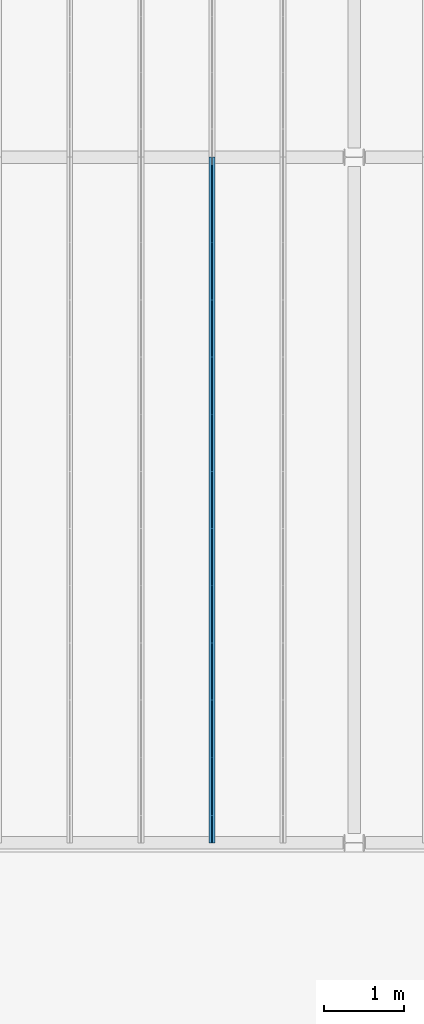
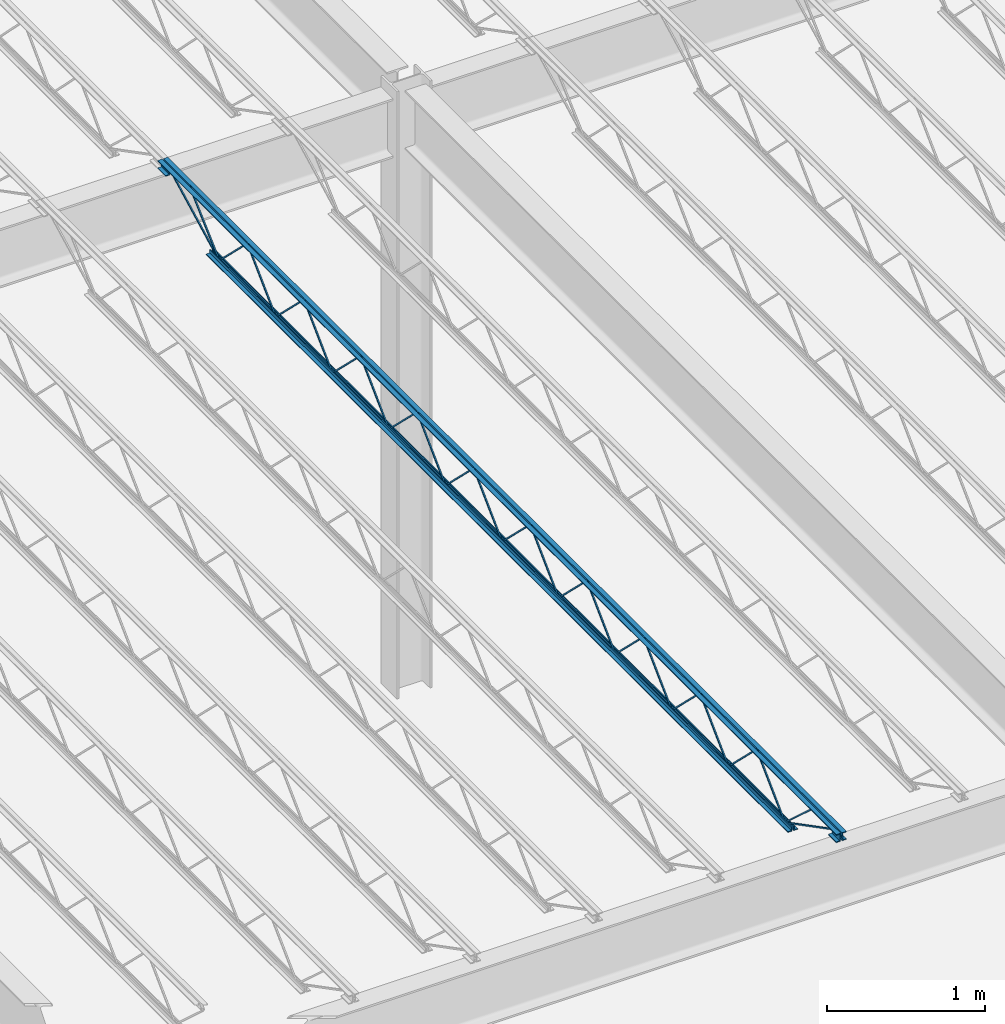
# One storey, part 31 of 119: 1 beam.
"""IFC2X3 building model written with IfcOpenShell, lengths in metres."""

import ifcopenshell
import ifcopenshell.guid

model = None  # the IFC model being written
_history = None  # IfcOwnerHistory: only IFC2X3 demands one
_inside = {}  # id of a spatial element -> (the spatial element, [elements in it])
_under = {}  # id of a project, library or spatial element -> (it, [spatial elements below it])
_declared = {}  # id of a project -> (the project, [libraries it declares])
_typed = {}  # id of a type object -> (the type object, [elements of that type])
_made_of = {}  # id of a material, layer set ... -> (it, [elements and type objects made of it])


def new_model(schema):
    """Start an empty IFC model of exactly this schema.

    Asked for "IFC4X3", IfcOpenShell would pick the latest addendum, in which some entities
    have other attributes; the version numbers below select the first issue.
    IFC2X3 requires an IfcOwnerHistory on every rooted entity: one is made here for all.
    """
    global model, _history
    if schema == "IFC4X3":
        model = ifcopenshell.file(schema_version=(4, 3, 0, 0))
    else:
        model = ifcopenshell.file(schema=schema)
    _inside.clear()
    _under.clear()
    _declared.clear()
    _typed.clear()
    _made_of.clear()
    _history = None
    if model.schema == "IFC2X3":
        org = make("IfcOrganization", Name="unknown")
        user = make(
            "IfcPersonAndOrganization",
            ThePerson=make("IfcPerson", FamilyName="unknown"),
            TheOrganization=org,
        )
        app = make(
            "IfcApplication",
            ApplicationDeveloper=org,
            Version="unknown",
            ApplicationFullName="unknown",
            ApplicationIdentifier="unknown",
        )
        _history = make(
            "IfcOwnerHistory",
            OwningUser=user,
            OwningApplication=app,
            ChangeAction="ADDED",
            CreationDate=0,
        )
    return model


def make(cls, **values):
    """One entity of the class cls with the attributes given. An attribute that is None is left unset."""
    return model.create_entity(
        cls, **{name: value for name, value in values.items() if value is not None}
    )


def entity(cls, *values):
    """Any entity or typed value of the class cls, its attributes in the order of the schema. None: left unset."""
    e = model.create_entity(cls)
    for i, value in enumerate(values):
        if value is not None:
            e[i] = value
    return e


def rooted(cls, **values):
    """An entity with a GlobalId (a new one), such as an element, a storey or a relation."""
    return make(cls, GlobalId=ifcopenshell.guid.new(), OwnerHistory=_history, **values)


def si_unit(unit_type, name, prefix=None):
    """IfcSIUnit, for example si_unit("LENGTHUNIT", "METRE", prefix="MILLI")."""
    return make("IfcSIUnit", UnitType=unit_type, Prefix=prefix, Name=name)


def converted_unit(unit_type, name, factor, base, dimensions=None, offset=None):
    """IfcConversionBasedUnit, such as the inch: factor (a typed value) times the base unit."""
    return make(
        "IfcConversionBasedUnit"
        if offset is None
        else "IfcConversionBasedUnitWithOffset",
        ConversionOffset=offset,
        Dimensions=None
        if dimensions is None
        else entity("IfcDimensionalExponents", *dimensions),
        UnitType=unit_type,
        Name=name,
        ConversionFactor=make(
            "IfcMeasureWithUnit", ValueComponent=factor, UnitComponent=base
        ),
    )


def assignment(units):
    """IfcUnitAssignment: the units of a project."""
    return None if units is None else make("IfcUnitAssignment", Units=units)


def point(xyz):
    """IfcCartesianPoint."""
    return None if xyz is None else make("IfcCartesianPoint", Coordinates=xyz)


def direction(xyz):
    """IfcDirection."""
    return None if xyz is None else make("IfcDirection", DirectionRatios=xyz)


def frame(location, z_axis=None, x_axis=None):
    """IfcAxis2Placement3D, a coordinate frame: its origin and axes. An axis left out is left unset."""
    return make(
        "IfcAxis2Placement3D",
        Location=point(location),
        Axis=direction(z_axis),
        RefDirection=direction(x_axis),
    )


def origin():
    """The frame at (0, 0, 0) with its axes left unset."""
    return frame((0.0, 0.0, 0.0))


def place(relative_to, where):
    """IfcLocalPlacement: puts the frame where relative to a parent placement (None: the world)."""
    return make(
        "IfcLocalPlacement", PlacementRelTo=relative_to, RelativePlacement=where
    )


def context(
    kind, dimensions, precision=None, world=None, true_north=None, identifier=None
):
    """IfcGeometricRepresentationContext, for example the 3D "Model" context."""
    return make(
        "IfcGeometricRepresentationContext",
        ContextIdentifier=identifier,
        ContextType=kind,
        CoordinateSpaceDimension=dimensions,
        Precision=precision,
        WorldCoordinateSystem=world,
        TrueNorth=true_north,
    )


def project(units=None, contexts=None):
    """IfcProject with its units and contexts."""
    return rooted(
        "IfcProject",
        Name="project",
        RepresentationContexts=contexts,
        UnitsInContext=assignment(units),
    )


def spatial(cls, under=None, at=None, **own):
    """A site, building, storey or space (cls), placed at a placement, below another one or the project."""
    s = rooted(cls, ObjectPlacement=at, **own)
    if under is not None:
        _under.setdefault(under.id(), (under, []))[1].append(s)
    return s


def faces_of(points, faces, orient=None, outer=None):
    """IfcFace entities. A face is a list of loops; a loop is a list of indices into points, from 0.

    orient and outer hold one flag for each loop. By default every Orientation is true, the
    first loop of a face is its IfcFaceOuterBound and the others are IfcFaceBound.
    """
    made = []
    for i, loops in enumerate(faces):
        bounds = []
        for j, loop in enumerate(loops):
            is_outer = j == 0 if outer is None else outer[i][j]
            bounds.append(
                make(
                    "IfcFaceOuterBound" if is_outer else "IfcFaceBound",
                    Bound=make("IfcPolyLoop", Polygon=[points[k] for k in loop]),
                    Orientation=True if orient is None else orient[i][j],
                )
            )
        made.append(make("IfcFace", Bounds=bounds))
    return made


def face_set(faces, orient=None, outer=None):
    """The faces of one IfcConnectedFaceSet. surface_model builds it on its shared points."""
    return ("IfcConnectedFaceSet", faces, orient, outer)


def surface_model(cls, points, shells):
    """IfcFaceBasedSurfaceModel or IfcShellBasedSurfaceModel (cls): surfaces that need not close."""
    shared = [point(p) for p in points]
    made = [make(c, CfsFaces=faces_of(shared, fs, o, b)) for c, fs, o, b in shells]
    if cls == "IfcFaceBasedSurfaceModel":
        return make(cls, FbsmFaces=made)
    return make(cls, SbsmBoundary=made)


def shape(context_of_items, identifier, shape_type, items):
    """IfcShapeRepresentation: the items that make up one representation, for example the "Body"."""
    return make(
        "IfcShapeRepresentation",
        ContextOfItems=context_of_items,
        RepresentationIdentifier=identifier,
        RepresentationType=shape_type,
        Items=items,
    )


def made_of(thing, what):
    """Note that an element or type object is made of a material, layer set ...; save() writes the relation."""
    if what is not None:
        _made_of.setdefault(what.id(), (what, []))[1].append(thing)
    return thing


def element(
    cls,
    number,
    at=None,
    inside=None,
    cuts=None,
    type_object=None,
    material=None,
    context=None,
    identifier="Body",
    shape_type=None,
    held_by="IfcProductDefinitionShape",
    body=None,
    shapes=None,
    **own,
):
    """One element of the class cls, such as IfcWall. Its Tag is "e" and its number.

    at: its placement. inside: the storey or other place that contains it. cuts: it is an
    opening in that element (IfcRelVoidsElement). A single representation is given by context,
    identifier, shape_type and body (its items); several are given by shapes. held_by: the class
    of the entity that holds the representations. save() writes the other relations.
    """
    e = rooted(cls, Tag="e%d" % number, ObjectPlacement=at, **own)
    if body is not None:
        shapes = [shape(context, identifier, shape_type, body)]
    if shapes is not None:
        e.Representation = make(held_by, Representations=shapes)
    if inside is not None:
        _inside.setdefault(inside.id(), (inside, []))[1].append(e)
    if cuts is not None:
        rooted(
            "IfcRelVoidsElement", RelatingBuildingElement=cuts, RelatedOpeningElement=e
        )
    if type_object is not None:
        _typed.setdefault(type_object.id(), (type_object, []))[1].append(e)
    return made_of(e, material)


def aggregate(whole, parts):
    """IfcRelAggregates: a whole, such as a stair, and the parts it consists of."""
    return rooted("IfcRelAggregates", RelatingObject=whole, RelatedObjects=parts)


def save(model, path):
    """Write the relations noted so far, then the file.

    IfcRelAggregates (storeys below a building ...), IfcRelContainedInSpatialStructure (elements
    in a storey), IfcRelDefinesByType, IfcRelAssociatesMaterial and IfcRelDeclares: one each for
    every whole, place, type object, material and project.
    """
    for whole, parts in _under.values():
        aggregate(whole, parts)
    for where, things in _inside.values():
        rooted(
            "IfcRelContainedInSpatialStructure",
            RelatedElements=things,
            RelatingStructure=where,
        )
    for kind, things in _typed.values():
        rooted("IfcRelDefinesByType", RelatedObjects=things, RelatingType=kind)
    for what, things in _made_of.values():
        rooted("IfcRelAssociatesMaterial", RelatedObjects=things, RelatingMaterial=what)
    for by, libraries in _declared.values():
        rooted("IfcRelDeclares", RelatingContext=by, RelatedDefinitions=libraries)
    model.write(path)


model = new_model("IFC2X3")

# Units and contexts
model_context = context("Model", 3, precision=1e-09, world=origin())
plan_context = context("Plan", 3, precision=1e-09, world=origin())
ifc_project = project(units=[si_unit("LENGTHUNIT", "METRE"), si_unit("AREAUNIT", "SQUARE_METRE"), si_unit("VOLUMEUNIT", "CUBIC_METRE"), converted_unit("PLANEANGLEUNIT", "DEGREE", entity("IfcRatioMeasure", 0.01745329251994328), si_unit("PLANEANGLEUNIT", "RADIAN"), dimensions=[0, 0, 0, 0, 0, 0, 0]), si_unit("TIMEUNIT", "SECOND")], contexts=[model_context, plan_context])

# Site, building, storey
site_placement = place(None, origin())
site = spatial("IfcSite", under=ifc_project, at=site_placement, Name="Default", CompositionType="ELEMENT")
building_placement = place(site_placement, origin())
building = spatial("IfcBuilding", under=site, at=building_placement, CompositionType="ELEMENT")
storey_placement = place(building_placement, frame((0.0, 0.0, 4.570000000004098)))
storey = spatial("IfcBuildingStorey", under=building, at=storey_placement, Name="Second Floor", CompositionType="ELEMENT", Elevation=4.570000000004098)

# Beam
beam_placement = place(storey_placement, frame((-35.36425000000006, 10.04000000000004, 4.323999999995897)))
element("IfcBeam", 1, at=beam_placement, inside=storey, Name="M_K-Series Bar Joist-Rod Web:14K1:14K1", ObjectType="M_K-Series Bar Joist-Rod Web:14K1", context=model_context, shape_type="SurfaceModel", body=[
    surface_model("IfcFaceBasedSurfaceModel", [(0.04150000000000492, 6.428799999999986, 0.01110000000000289), (0.03200000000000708, 6.428799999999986, 0.01110000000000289), (0.03200000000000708, 6.428799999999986, 0.001600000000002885), (0.04150000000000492, 6.428799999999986, 0.001600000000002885), (0.03200000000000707, 6.430038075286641, 0.01110000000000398), (0.04150000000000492, 6.430038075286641, 0.01110000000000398), (0.03200000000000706, 6.433911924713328, 0.001600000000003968), (0.03200000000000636, 6.784861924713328, 0.3449000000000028), (0.03200000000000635, 6.78733807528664, 0.3449000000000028), (0.03200000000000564, 7.138288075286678, 0.001600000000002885), (0.03200000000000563, 7.143399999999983, 0.001600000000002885), (0.03200000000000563, 7.143399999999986, 0.01110000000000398), (0.03200000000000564, 7.142161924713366, 0.01110000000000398), (0.03200000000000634, 6.79121192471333, 0.3544000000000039), (0.03200000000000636, 6.780988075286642, 0.3544000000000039), (0.04150000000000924, 6.433911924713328, 0.001600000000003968), (0.04150000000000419, 6.784861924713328, 0.3449000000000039), (0.04150000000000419, 6.787338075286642, 0.3449000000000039), (0.04150000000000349, 7.138288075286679, 0.001600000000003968), (0.04150000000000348, 7.143399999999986, 0.001600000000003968), (0.04150000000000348, 7.143399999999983, 0.01110000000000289), (0.04150000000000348, 7.142161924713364, 0.01110000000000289), (0.04150000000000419, 6.791211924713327, 0.3544000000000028), (0.0415000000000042, 6.780988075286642, 0.3544000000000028), (0.04150000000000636, 5.714199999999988, 0.01110000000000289), (0.03200000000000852, 5.714199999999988, 0.01110000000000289), (0.03200000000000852, 5.714199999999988, 0.001600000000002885), (0.04150000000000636, 5.714199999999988, 0.001600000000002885), (0.03200000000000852, 5.715438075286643, 0.01110000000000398), (0.04150000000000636, 5.715438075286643, 0.01110000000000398), (0.03200000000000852, 5.71931192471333, 0.001600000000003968), (0.0320000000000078, 6.07026192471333, 0.3449000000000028), (0.0320000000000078, 6.072738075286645, 0.3449000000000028), (0.03200000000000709, 6.423688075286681, 0.001600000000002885), (0.03200000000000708, 6.428799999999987, 0.001600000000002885), (0.03200000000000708, 6.428799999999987, 0.01110000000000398), (0.03200000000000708, 6.427561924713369, 0.01110000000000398), (0.03200000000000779, 6.076611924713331, 0.3544000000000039), (0.03200000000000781, 6.066388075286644, 0.3544000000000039), (0.04150000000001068, 5.71931192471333, 0.001600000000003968), (0.04150000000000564, 6.07026192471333, 0.3449000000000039), (0.04150000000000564, 6.072738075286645, 0.3449000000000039), (0.04150000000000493, 6.423688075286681, 0.001600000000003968), (0.04150000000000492, 6.428799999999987, 0.001600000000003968), (0.04150000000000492, 6.428799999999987, 0.01110000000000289), (0.04150000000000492, 6.427561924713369, 0.01110000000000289), (0.04150000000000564, 6.076611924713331, 0.3544000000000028), (0.04150000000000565, 6.066388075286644, 0.3544000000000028), (0.04150000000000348, 4.999599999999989, 0.01110000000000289), (0.03200000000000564, 4.999599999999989, 0.01110000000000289), (0.03200000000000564, 4.999599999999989, 0.001600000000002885), (0.04150000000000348, 4.999599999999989, 0.001600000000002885), (0.03200000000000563, 5.000838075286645, 0.01110000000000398), (0.04150000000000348, 5.000838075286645, 0.01110000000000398), (0.03200000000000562, 5.004711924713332, 0.001600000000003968), (0.03200000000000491, 5.355661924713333, 0.3449000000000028), (0.03200000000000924, 5.358138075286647, 0.3449000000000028), (0.03200000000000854, 5.709088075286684, 0.001600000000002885), (0.03200000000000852, 5.714199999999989, 0.001600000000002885), (0.03200000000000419, 5.714199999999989, 0.01110000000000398), (0.03200000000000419, 5.712961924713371, 0.01110000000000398), (0.03200000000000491, 5.362011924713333, 0.3544000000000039), (0.03200000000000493, 5.351788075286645, 0.3544000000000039), (0.0415000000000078, 5.004711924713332, 0.001600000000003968), (0.04150000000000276, 5.355661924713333, 0.3449000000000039), (0.04150000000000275, 5.358138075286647, 0.3449000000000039), (0.04150000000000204, 5.709088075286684, 0.001600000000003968), (0.04150000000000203, 5.714199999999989, 0.001600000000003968), (0.04150000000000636, 5.714199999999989, 0.01110000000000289), (0.04150000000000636, 5.712961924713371, 0.01110000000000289), (0.04150000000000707, 5.362011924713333, 0.3544000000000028), (0.04150000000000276, 5.351788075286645, 0.3544000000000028), (0.04150000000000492, 4.284999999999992, 0.01110000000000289), (0.03200000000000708, 4.284999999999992, 0.01110000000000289), (0.03200000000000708, 4.284999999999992, 0.001600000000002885), (0.04150000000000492, 4.284999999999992, 0.001600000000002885), (0.03200000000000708, 4.286238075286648, 0.01110000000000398), (0.04150000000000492, 4.286238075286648, 0.01110000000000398), (0.03200000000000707, 4.290111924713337, 0.001600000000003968), (0.03200000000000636, 4.641061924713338, 0.3449000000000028), (0.03200000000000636, 4.643538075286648, 0.3449000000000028), (0.03200000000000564, 4.994488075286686, 0.001600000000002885), (0.03200000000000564, 4.999599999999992, 0.001600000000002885), (0.03200000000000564, 4.999599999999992, 0.01110000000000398), (0.03200000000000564, 4.998361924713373, 0.01110000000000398), (0.03200000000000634, 4.647411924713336, 0.3544000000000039), (0.03200000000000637, 4.637188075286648, 0.3544000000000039), (0.04150000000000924, 4.290111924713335, 0.001600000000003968), (0.0415000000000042, 4.641061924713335, 0.3449000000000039), (0.04150000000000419, 4.643538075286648, 0.3449000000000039), (0.04150000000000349, 4.994488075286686, 0.001600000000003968), (0.04150000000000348, 4.999599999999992, 0.001600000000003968), (0.04150000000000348, 4.999599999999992, 0.01110000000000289), (0.04150000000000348, 4.998361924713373, 0.01110000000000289), (0.04150000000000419, 4.647411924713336, 0.3544000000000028), (0.04150000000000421, 4.637188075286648, 0.3544000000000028), (0.04150000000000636, 3.570399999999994, 0.01110000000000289), (0.03200000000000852, 3.570399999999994, 0.01110000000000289), (0.03200000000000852, 3.570399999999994, 0.001600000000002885), (0.04150000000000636, 3.570399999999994, 0.001600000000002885), (0.03200000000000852, 3.57163807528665, 0.01110000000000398), (0.04150000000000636, 3.57163807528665, 0.01110000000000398), (0.03200000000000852, 3.575511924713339, 0.001600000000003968), (0.03200000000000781, 3.926461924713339, 0.3449000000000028), (0.0320000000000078, 3.928938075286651, 0.3449000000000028), (0.03200000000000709, 4.279888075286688, 0.001600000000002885), (0.03200000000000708, 4.284999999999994, 0.001600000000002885), (0.03200000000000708, 4.284999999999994, 0.01110000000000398), (0.03200000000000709, 4.283761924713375, 0.01110000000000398), (0.03200000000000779, 3.932811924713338, 0.3544000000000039), (0.03200000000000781, 3.92258807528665, 0.3544000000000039), (0.04150000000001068, 3.575511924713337, 0.001600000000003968), (0.04150000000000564, 3.926461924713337, 0.3449000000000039), (0.04150000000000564, 3.928938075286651, 0.3449000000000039), (0.04150000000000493, 4.279888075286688, 0.001600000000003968), (0.04150000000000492, 4.284999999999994, 0.001600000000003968), (0.04150000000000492, 4.284999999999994, 0.01110000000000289), (0.04150000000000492, 4.283761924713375, 0.01110000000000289), (0.04150000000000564, 3.93281192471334, 0.3544000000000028), (0.04150000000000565, 3.922588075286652, 0.3544000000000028), (0.04150000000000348, 2.855799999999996, 0.01110000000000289), (0.03200000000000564, 2.855799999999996, 0.01110000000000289), (0.03200000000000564, 2.855799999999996, 0.001600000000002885), (0.04150000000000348, 2.855799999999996, 0.001600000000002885), (0.03200000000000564, 2.857038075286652, 0.01110000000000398), (0.04150000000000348, 2.857038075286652, 0.01110000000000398), (0.03200000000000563, 2.860911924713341, 0.001600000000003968), (0.03200000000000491, 3.211861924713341, 0.3449000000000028), (0.03200000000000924, 3.214338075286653, 0.3449000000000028), (0.03200000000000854, 3.56528807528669, 0.001600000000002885), (0.03200000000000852, 3.570399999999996, 0.001600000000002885), (0.03200000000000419, 3.570399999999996, 0.01110000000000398), (0.0320000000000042, 3.569161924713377, 0.01110000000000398), (0.03200000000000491, 3.21821192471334, 0.3544000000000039), (0.03200000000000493, 3.207988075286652, 0.3544000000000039), (0.0415000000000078, 2.860911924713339, 0.001600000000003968), (0.04150000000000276, 3.21186192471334, 0.3449000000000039), (0.04150000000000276, 3.214338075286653, 0.3449000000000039), (0.04150000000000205, 3.56528807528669, 0.001600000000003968), (0.04150000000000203, 3.570399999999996, 0.001600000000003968), (0.04150000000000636, 3.570399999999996, 0.01110000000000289), (0.04150000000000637, 3.569161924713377, 0.01110000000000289), (0.04150000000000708, 3.218211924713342, 0.3544000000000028), (0.04150000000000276, 3.207988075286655, 0.3544000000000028), (0.04150000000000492, 2.1412, 0.01110000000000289), (0.03200000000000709, 2.1412, 0.01110000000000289), (0.03200000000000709, 2.1412, 0.001600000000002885), (0.04150000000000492, 2.1412, 0.001600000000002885), (0.03200000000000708, 2.142438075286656, 0.01110000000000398), (0.04150000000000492, 2.142438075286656, 0.01110000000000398), (0.03200000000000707, 2.146311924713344, 0.001600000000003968), (0.03200000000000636, 2.497261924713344, 0.3449000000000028), (0.03200000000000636, 2.499738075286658, 0.3449000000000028), (0.03200000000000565, 2.850688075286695, 0.001600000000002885), (0.03200000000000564, 2.8558, 0.001600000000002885), (0.03200000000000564, 2.8558, 0.01110000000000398), (0.03200000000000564, 2.854561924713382, 0.01110000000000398), (0.03200000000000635, 2.503611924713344, 0.3544000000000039), (0.03200000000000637, 2.493388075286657, 0.3544000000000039), (0.04150000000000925, 2.146311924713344, 0.001600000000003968), (0.0415000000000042, 2.497261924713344, 0.3449000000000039), (0.04150000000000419, 2.499738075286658, 0.3449000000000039), (0.04150000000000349, 2.850688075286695, 0.001600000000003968), (0.04150000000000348, 2.8558, 0.001600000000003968), (0.04150000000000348, 2.8558, 0.01110000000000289), (0.04150000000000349, 2.854561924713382, 0.01110000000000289), (0.04150000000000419, 2.503611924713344, 0.3544000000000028), (0.04150000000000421, 2.493388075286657, 0.3544000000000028), (0.04150000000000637, 1.426600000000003, 0.01110000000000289), (0.03200000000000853, 1.426600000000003, 0.01110000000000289), (0.03200000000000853, 1.426600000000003, 0.001600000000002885), (0.04150000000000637, 1.426600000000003, 0.001600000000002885), (0.03200000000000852, 1.427838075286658, 0.01110000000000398), (0.04150000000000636, 1.427838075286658, 0.01110000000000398), (0.03200000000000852, 1.431711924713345, 0.001600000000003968), (0.03200000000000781, 1.782661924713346, 0.3449000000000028), (0.0320000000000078, 1.78513807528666, 0.3449000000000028), (0.03200000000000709, 2.136088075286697, 0.001600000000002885), (0.03200000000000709, 2.141200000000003, 0.001600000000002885), (0.03200000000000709, 2.141200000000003, 0.01110000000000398), (0.03200000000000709, 2.139961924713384, 0.01110000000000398), (0.03200000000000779, 1.789011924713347, 0.3544000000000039), (0.03200000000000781, 1.778788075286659, 0.3544000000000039), (0.0415000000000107, 1.431711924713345, 0.001600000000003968), (0.04150000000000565, 1.782661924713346, 0.3449000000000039), (0.04150000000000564, 1.78513807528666, 0.3449000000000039), (0.04150000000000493, 2.136088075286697, 0.001600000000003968), (0.04150000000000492, 2.141200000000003, 0.001600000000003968), (0.04150000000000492, 2.141200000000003, 0.01110000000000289), (0.04150000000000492, 2.139961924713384, 0.01110000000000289), (0.04150000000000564, 1.789011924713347, 0.3544000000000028), (0.04150000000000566, 1.778788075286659, 0.3544000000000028), (0.04150000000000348, 7.143399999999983, 0.01109999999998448), (0.03200000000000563, 7.143399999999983, 0.01109999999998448), (0.03200000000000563, 7.143399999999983, 0.001599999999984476), (0.04150000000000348, 7.143399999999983, 0.001599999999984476), (0.03200000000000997, 7.144638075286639, 0.01109999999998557), (0.0415000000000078, 7.144638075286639, 0.01109999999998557), (0.03200000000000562, 7.148511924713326, 0.001599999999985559), (0.03200000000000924, 7.499461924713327, 0.3448999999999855), (0.03200000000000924, 7.501938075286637, 0.3448999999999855), (0.03200000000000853, 7.852888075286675, 0.001599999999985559), (0.03200000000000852, 7.857999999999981, 0.001599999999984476), (0.03200000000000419, 7.857999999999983, 0.01109999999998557), (0.03200000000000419, 7.856761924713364, 0.01109999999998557), (0.0320000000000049, 7.505811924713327, 0.3543999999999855), (0.03200000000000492, 7.495588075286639, 0.3543999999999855), (0.04150000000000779, 7.148511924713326, 0.001599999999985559), (0.04150000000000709, 7.499461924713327, 0.3448999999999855), (0.04150000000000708, 7.50193807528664, 0.3448999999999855), (0.04150000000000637, 7.852888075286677, 0.001599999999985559), (0.04150000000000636, 7.857999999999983, 0.001599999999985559), (0.04150000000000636, 7.857999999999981, 0.01109999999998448), (0.0415000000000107, 7.856761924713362, 0.01109999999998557), (0.0415000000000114, 7.505811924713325, 0.3543999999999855), (0.04150000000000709, 7.495588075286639, 0.3543999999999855), (0.04150000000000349, 0.712000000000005, 0.01110000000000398), (0.03200000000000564, 0.712000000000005, 0.01110000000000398), (0.03200000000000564, 0.712000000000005, 0.001600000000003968), (0.04150000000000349, 0.712000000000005, 0.001600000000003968), (0.03200000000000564, 0.7132380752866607, 0.01110000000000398), (0.04150000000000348, 0.7132380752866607, 0.01110000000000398), (0.03200000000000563, 0.7171119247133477, 0.001600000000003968), (0.03200000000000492, 1.068061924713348, 0.3449000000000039), (0.03200000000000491, 1.070538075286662, 0.3449000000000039), (0.03200000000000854, 1.421488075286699, 0.001600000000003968), (0.03200000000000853, 1.426600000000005, 0.001600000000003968), (0.0320000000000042, 1.426600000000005, 0.01110000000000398), (0.0320000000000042, 1.425361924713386, 0.01110000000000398), (0.03200000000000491, 1.074411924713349, 0.3544000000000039), (0.03200000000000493, 1.064188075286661, 0.3544000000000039), (0.0415000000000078, 0.7171119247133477, 0.001600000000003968), (0.04150000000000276, 1.068061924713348, 0.3449000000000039), (0.04150000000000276, 1.070538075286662, 0.3449000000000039), (0.04150000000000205, 1.421488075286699, 0.001600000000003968), (0.04150000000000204, 1.426600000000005, 0.001600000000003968), (0.04150000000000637, 1.426600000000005, 0.01110000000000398), (0.04150000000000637, 1.425361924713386, 0.01110000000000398), (0.04150000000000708, 1.074411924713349, 0.3544000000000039), (0.04150000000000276, 1.064188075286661, 0.3544000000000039), (0.03200000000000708, 8.57, 0.3559999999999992), (0.0, 8.57, 0.3559999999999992), (0.0, 8.57, 0.3494999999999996), (0.02550000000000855, 8.57, 0.3494999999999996), (0.02550000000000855, 8.57, 0.3239999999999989), (0.03200000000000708, 8.57, 0.3239999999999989), (0.04150000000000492, 8.57, 0.3559999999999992), (0.04150000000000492, 8.57, 0.3239999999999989), (0.04800000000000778, 8.57, 0.3239999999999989), (0.04800000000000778, 8.57, 0.3494999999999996), (0.07350000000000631, 8.57, 0.3494999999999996), (0.07350000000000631, 8.57, 0.3559999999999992), (0.03200000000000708, 0.0, 0.3559999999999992), (0.0, 0.0, 0.3559999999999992), (0.0, 0.0, 0.3494999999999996), (0.02550000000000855, 0.0, 0.3494999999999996), (0.02550000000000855, 0.0, 0.3239999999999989), (0.03200000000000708, 0.0, 0.3239999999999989), (0.04150000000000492, 0.0, 0.3559999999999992), (0.04150000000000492, 0.0, 0.3239999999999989), (0.04800000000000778, 0.0, 0.3239999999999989), (0.04800000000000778, 0.0, 0.3494999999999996), (0.07350000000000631, 0.0, 0.3494999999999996), (0.07350000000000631, 0.0, 0.3559999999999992), (0.04150000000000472, 0.09999999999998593, 0.2924999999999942), (0.0735000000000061, 0.09999999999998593, 0.2924999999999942), (0.0735000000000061, 0.09999999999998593, 0.2989999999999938), (0.04800000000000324, 0.09999999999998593, 0.2989999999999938), (0.04800000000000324, 0.09999999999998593, 0.3239999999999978), (0.04150000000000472, 0.09999999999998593, 0.3239999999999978), (0.0, 0.09999999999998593, 0.2924999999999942), (0.03200000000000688, 0.09999999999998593, 0.2924999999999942), (0.03200000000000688, 0.09999999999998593, 0.3239999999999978), (0.02550000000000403, 0.09999999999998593, 0.3239999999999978), (0.02550000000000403, 0.09999999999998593, 0.2989999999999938), (0.0, 0.09999999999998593, 0.2989999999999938), (0.04150000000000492, 0.0, 0.2924999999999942), (0.07350000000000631, 0.0, 0.2924999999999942), (0.07350000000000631, 0.0, 0.2989999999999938), (0.04800000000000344, 0.0, 0.2989999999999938), (0.04800000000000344, 0.0, 0.3239999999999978), (0.04150000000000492, 0.0, 0.3239999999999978), (0.0, 0.0, 0.2924999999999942), (0.03200000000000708, 0.0, 0.2924999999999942), (0.03200000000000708, 0.0, 0.3239999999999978), (0.02550000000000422, 0.0, 0.3239999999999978), (0.02550000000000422, 0.0, 0.2989999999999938), (0.0, 0.0, 0.2989999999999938), (0.03200000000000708, 8.57, 0.2924999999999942), (0.03200000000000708, 8.57, 0.3239999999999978), (0.02550000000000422, 8.57, 0.3239999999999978), (0.02550000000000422, 8.57, 0.2989999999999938), (0.0, 8.57, 0.2989999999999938), (0.0, 8.57, 0.2924999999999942), (0.04150000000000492, 8.57, 0.2924999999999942), (0.07350000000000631, 8.57, 0.2924999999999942), (0.07350000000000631, 8.57, 0.2989999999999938), (0.04800000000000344, 8.57, 0.2989999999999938), (0.04800000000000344, 8.57, 0.3239999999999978), (0.04150000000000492, 8.57, 0.3239999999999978), (0.03200000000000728, 8.47, 0.2924999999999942), (0.03200000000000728, 8.47, 0.3239999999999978), (0.02550000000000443, 8.47, 0.3239999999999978), (0.02550000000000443, 8.47, 0.2989999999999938), (0.0, 8.47, 0.2989999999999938), (0.0, 8.47, 0.2924999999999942), (0.04150000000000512, 8.47, 0.2924999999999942), (0.07350000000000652, 8.47, 0.2924999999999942), (0.07350000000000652, 8.47, 0.2989999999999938), (0.04800000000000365, 8.47, 0.2989999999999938), (0.04800000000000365, 8.47, 0.3239999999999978), (0.04150000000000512, 8.47, 0.3239999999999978), (0.03200000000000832, 7.958000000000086, 0.0), (0.03200000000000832, 7.958000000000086, 0.03199999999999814), (0.0255000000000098, 7.958000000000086, 0.03199999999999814), (0.0255000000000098, 7.958000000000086, 0.006499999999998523), (0.0, 7.958000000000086, 0.006499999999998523), (0.0, 7.958000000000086, 0.0), (0.04150000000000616, 7.958000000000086, 0.0), (0.07350000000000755, 7.958000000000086, 0.0), (0.07350000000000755, 7.958000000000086, 0.006499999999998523), (0.04800000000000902, 7.958000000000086, 0.006499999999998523), (0.04800000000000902, 7.958000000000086, 0.03199999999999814), (0.04150000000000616, 7.958000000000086, 0.03199999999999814), (0.03200000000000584, 0.6120000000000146, 0.0), (0.03200000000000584, 0.6120000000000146, 0.03199999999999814), (0.02550000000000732, 0.6120000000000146, 0.03199999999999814), (0.02550000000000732, 0.6120000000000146, 0.006499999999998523), (0.0, 0.6120000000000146, 0.006499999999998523), (0.0, 0.6120000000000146, 0.0), (0.04150000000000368, 0.6120000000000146, 0.0), (0.07350000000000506, 0.6120000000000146, 0.0), (0.07350000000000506, 0.6120000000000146, 0.006499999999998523), (0.04800000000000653, 0.6120000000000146, 0.006499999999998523), (0.04800000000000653, 0.6120000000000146, 0.03199999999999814), (0.04150000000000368, 0.6120000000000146, 0.03199999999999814), (0.04150000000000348, 0.7141882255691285, 0.01056594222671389), (0.03200000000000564, 0.7141882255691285, 0.01056594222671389), (0.03200000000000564, 0.7098117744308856, 0.002134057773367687), (0.04150000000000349, 0.7098117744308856, 0.00213405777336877), (0.04150000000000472, 0.1011592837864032, 0.3287499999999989), (0.04150000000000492, 0.0, 0.3287499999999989), (0.04150000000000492, 0.0, 0.3192499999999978), (0.04150000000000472, 0.09884071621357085, 0.3192499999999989), (0.03200000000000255, 0.09884071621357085, 0.3192499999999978), (0.03200000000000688, 0.1011592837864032, 0.3287499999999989), (0.03200000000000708, 0.0, 0.3287499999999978), (0.03200000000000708, 0.0, 0.3192499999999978), (0.04150000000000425, 0.3347428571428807, 0.3417000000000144), (0.0320000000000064, 0.3347428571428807, 0.3417000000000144), (0.0320000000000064, 0.3347428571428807, 0.3322000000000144), (0.04150000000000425, 0.3347428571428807, 0.3322000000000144), (0.03200000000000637, 0.349275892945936, 0.3417000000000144), (0.04150000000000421, 0.349275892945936, 0.3417000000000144), (0.03200000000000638, 0.3456098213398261, 0.3322000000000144), (0.03200000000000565, 0.7088091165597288, 0.002831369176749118), (0.03200000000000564, 0.7151908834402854, 0.009868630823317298), (0.04150000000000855, 0.3456098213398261, 0.3322000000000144), (0.04150000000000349, 0.7088091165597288, 0.002831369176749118), (0.04150000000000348, 0.7151908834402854, 0.009868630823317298), (0.04150000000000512, 8.472188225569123, 0.3197840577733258), (0.04150000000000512, 8.467811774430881, 0.328215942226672), (0.03200000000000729, 8.467811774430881, 0.328215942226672), (0.03200000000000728, 8.472188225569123, 0.3197840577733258), (0.04150000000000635, 7.860188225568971, 0.002134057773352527), (0.04150000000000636, 7.855811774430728, 0.01056594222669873), (0.03200000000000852, 7.855811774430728, 0.01056594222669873), (0.03200000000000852, 7.860188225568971, 0.002134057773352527), (0.0415000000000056, 8.233036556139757, 0.3461600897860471), (0.04150000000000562, 8.22659201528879, 0.3531399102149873), (0.03200000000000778, 8.22659201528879, 0.3531399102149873), (0.03200000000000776, 8.233036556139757, 0.3461600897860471), (0.04150000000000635, 7.861222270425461, 0.00286008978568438), (0.04150000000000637, 7.854777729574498, 0.009839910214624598), (0.03200000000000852, 7.854777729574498, 0.009839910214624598), (0.03200000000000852, 7.861222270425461, 0.00286008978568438)], [face_set([[[0, 1, 2, 3]], [[1, 4, 5, 0]], [[2, 6, 7, 8, 9, 10, 11, 12, 13, 14, 4, 1]], [[3, 2, 6, 15]], [[0, 3, 15, 16, 17, 18, 19, 20, 21, 22, 23, 5]], [[4, 5, 23, 14]], [[15, 16, 7, 6]], [[14, 13, 22, 23]], [[16, 7, 8, 17]], [[13, 12, 21, 22]], [[17, 8, 9, 18]], [[20, 11, 10, 19]], [[12, 11, 20, 21]], [[18, 9, 10, 19]]]), face_set([[[24, 25, 26, 27]], [[25, 28, 29, 24]], [[26, 30, 31, 32, 33, 34, 35, 36, 37, 38, 28, 25]], [[27, 26, 30, 39]], [[24, 27, 39, 40, 41, 42, 43, 44, 45, 46, 47, 29]], [[28, 29, 47, 38]], [[39, 40, 31, 30]], [[38, 37, 46, 47]], [[40, 31, 32, 41]], [[37, 36, 45, 46]], [[41, 32, 33, 42]], [[44, 35, 34, 43]], [[36, 35, 44, 45]], [[42, 33, 34, 43]]]), face_set([[[48, 49, 50, 51]], [[49, 52, 53, 48]], [[50, 54, 55, 56, 57, 58, 59, 60, 61, 62, 52, 49]], [[51, 50, 54, 63]], [[48, 51, 63, 64, 65, 66, 67, 68, 69, 70, 71, 53]], [[52, 53, 71, 62]], [[63, 64, 55, 54]], [[62, 61, 70, 71]], [[64, 55, 56, 65]], [[61, 60, 69, 70]], [[65, 56, 57, 66]], [[68, 59, 58, 67]], [[60, 59, 68, 69]], [[66, 57, 58, 67]]]), face_set([[[72, 73, 74, 75]], [[73, 76, 77, 72]], [[74, 78, 79, 80, 81, 82, 83, 84, 85, 86, 76, 73]], [[75, 74, 78, 87]], [[72, 75, 87, 88, 89, 90, 91, 92, 93, 94, 95, 77]], [[76, 77, 95, 86]], [[87, 88, 79, 78]], [[86, 85, 94, 95]], [[88, 79, 80, 89]], [[85, 84, 93, 94]], [[89, 80, 81, 90]], [[92, 83, 82, 91]], [[84, 83, 92, 93]], [[90, 81, 82, 91]]]), face_set([[[96, 97, 98, 99]], [[97, 100, 101, 96]], [[98, 102, 103, 104, 105, 106, 107, 108, 109, 110, 100, 97]], [[99, 98, 102, 111]], [[96, 99, 111, 112, 113, 114, 115, 116, 117, 118, 119, 101]], [[100, 101, 119, 110]], [[111, 112, 103, 102]], [[110, 109, 118, 119]], [[112, 103, 104, 113]], [[109, 108, 117, 118]], [[113, 104, 105, 114]], [[116, 107, 106, 115]], [[108, 107, 116, 117]], [[114, 105, 106, 115]]]), face_set([[[120, 121, 122, 123]], [[121, 124, 125, 120]], [[122, 126, 127, 128, 129, 130, 131, 132, 133, 134, 124, 121]], [[123, 122, 126, 135]], [[120, 123, 135, 136, 137, 138, 139, 140, 141, 142, 143, 125]], [[124, 125, 143, 134]], [[135, 136, 127, 126]], [[134, 133, 142, 143]], [[136, 127, 128, 137]], [[133, 132, 141, 142]], [[137, 128, 129, 138]], [[140, 131, 130, 139]], [[132, 131, 140, 141]], [[138, 129, 130, 139]]]), face_set([[[144, 145, 146, 147]], [[145, 148, 149, 144]], [[146, 150, 151, 152, 153, 154, 155, 156, 157, 158, 148, 145]], [[147, 146, 150, 159]], [[144, 147, 159, 160, 161, 162, 163, 164, 165, 166, 167, 149]], [[148, 149, 167, 158]], [[159, 160, 151, 150]], [[158, 157, 166, 167]], [[160, 151, 152, 161]], [[157, 156, 165, 166]], [[161, 152, 153, 162]], [[164, 155, 154, 163]], [[156, 155, 164, 165]], [[162, 153, 154, 163]]]), face_set([[[168, 169, 170, 171]], [[169, 172, 173, 168]], [[170, 174, 175, 176, 177, 178, 179, 180, 181, 182, 172, 169]], [[171, 170, 174, 183]], [[168, 171, 183, 184, 185, 186, 187, 188, 189, 190, 191, 173]], [[172, 173, 191, 182]], [[183, 184, 175, 174]], [[182, 181, 190, 191]], [[184, 175, 176, 185]], [[181, 180, 189, 190]], [[185, 176, 177, 186]], [[188, 179, 178, 187]], [[180, 179, 188, 189]], [[186, 177, 178, 187]]]), face_set([[[192, 193, 194, 195]], [[193, 196, 197, 192]], [[194, 198, 199, 200, 201, 202, 203, 204, 205, 206, 196, 193]], [[195, 194, 198, 207]], [[192, 195, 207, 208, 209, 210, 211, 212, 213, 214, 215, 197]], [[196, 197, 215, 206]], [[207, 208, 199, 198]], [[206, 205, 214, 215]], [[208, 199, 200, 209]], [[205, 204, 213, 214]], [[209, 200, 201, 210]], [[212, 203, 202, 211]], [[204, 203, 212, 213]], [[210, 201, 202, 211]]]), face_set([[[216, 217, 218, 219]], [[217, 220, 221, 216]], [[218, 222, 223, 224, 225, 226, 227, 228, 229, 230, 220, 217]], [[219, 218, 222, 231]], [[216, 219, 231, 232, 233, 234, 235, 236, 237, 238, 239, 221]], [[220, 221, 239, 230]], [[231, 232, 223, 222]], [[230, 229, 238, 239]], [[232, 223, 224, 233]], [[229, 228, 237, 238]], [[233, 224, 225, 234]], [[236, 227, 226, 235]], [[228, 227, 236, 237]], [[234, 225, 226, 235]]]), face_set([[[240, 241, 242, 243, 244, 245]], [[246, 247, 248, 249, 250, 251]], [[252, 253, 254, 255, 256, 257]], [[258, 259, 260, 261, 262, 263]], [[245, 240, 252, 257]], [[244, 245, 257, 256]], [[243, 255, 256, 244]], [[242, 243, 255, 254]], [[241, 253, 254, 242]], [[240, 252, 253, 241]], [[251, 263, 258, 246]], [[250, 251, 263, 262]], [[249, 250, 262, 261]], [[248, 249, 261, 260]], [[247, 248, 260, 259]], [[246, 258, 259, 247]]]), face_set([[[264, 265, 266, 267, 268, 269]], [[270, 271, 272, 273, 274, 275]], [[276, 277, 278, 279, 280, 281]], [[282, 283, 284, 285, 286, 287]], [[269, 281, 276, 264]], [[268, 280, 281, 269]], [[267, 268, 280, 279]], [[266, 278, 279, 267]], [[265, 266, 278, 277]], [[264, 265, 277, 276]], [[275, 287, 282, 270]], [[274, 286, 287, 275]], [[273, 285, 286, 274]], [[272, 284, 285, 273]], [[271, 272, 284, 283]], [[270, 271, 283, 282]]]), face_set([[[288, 289, 290, 291, 292, 293]], [[294, 295, 296, 297, 298, 299]], [[300, 301, 302, 303, 304, 305]], [[306, 307, 308, 309, 310, 311]], [[293, 288, 300, 305]], [[292, 304, 305, 293]], [[291, 303, 304, 292]], [[290, 302, 303, 291]], [[289, 301, 302, 290]], [[288, 289, 301, 300]], [[299, 311, 306, 294]], [[298, 310, 311, 299]], [[297, 298, 310, 309]], [[296, 308, 309, 297]], [[295, 296, 308, 307]], [[294, 295, 307, 306]]]), face_set([[[312, 313, 314, 315, 316, 317]], [[318, 319, 320, 321, 322, 323]], [[324, 325, 326, 327, 328, 329]], [[330, 331, 332, 333, 334, 335]], [[317, 312, 324, 329]], [[316, 328, 329, 317]], [[315, 327, 328, 316]], [[314, 326, 327, 315]], [[313, 325, 326, 314]], [[312, 313, 325, 324]], [[323, 335, 330, 318]], [[322, 334, 335, 323]], [[321, 322, 334, 333]], [[320, 332, 333, 321]], [[319, 320, 332, 331]], [[318, 319, 331, 330]]]), face_set([[[336, 337, 338, 339]], [[339, 336, 340, 341, 342, 343]], [[338, 339, 343, 344]], [[337, 345, 346, 347, 344, 338]], [[336, 340, 345, 337]], [[341, 346, 347, 342]], [[344, 343, 342, 347]], [[340, 341, 346, 345]]]), face_set([[[348, 349, 350, 351]], [[349, 352, 353, 348]], [[350, 354, 355, 356, 352, 349]], [[351, 350, 354, 357]], [[348, 351, 357, 358, 359, 353]], [[359, 356, 355, 358]], [[352, 356, 359, 353]], [[357, 354, 355, 358]]]), face_set([[[360, 361, 362, 363]], [[364, 365, 366, 367]], [[363, 360, 364, 367]], [[362, 366, 367, 363]], [[361, 365, 366, 362]], [[360, 361, 365, 364]]]), face_set([[[368, 369, 370, 371]], [[372, 373, 374, 375]], [[371, 375, 372, 368]], [[370, 374, 375, 371]], [[369, 370, 374, 373]], [[368, 369, 373, 372]]])]),
])

save(model, "model.ifc")
